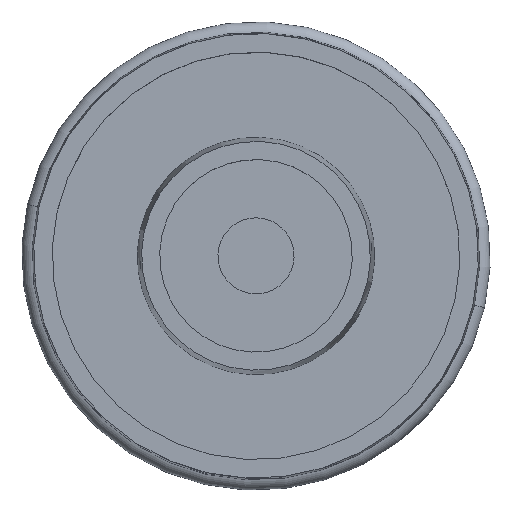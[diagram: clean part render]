
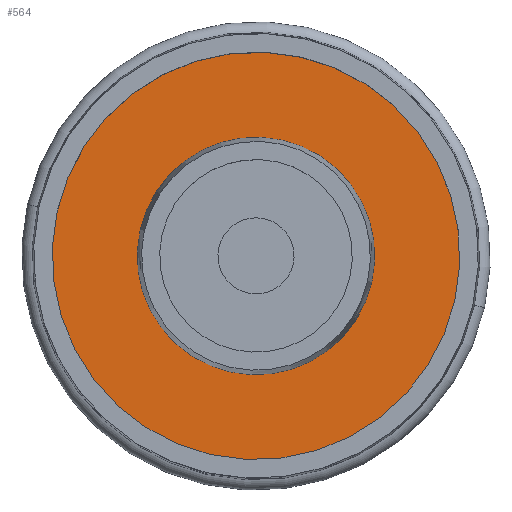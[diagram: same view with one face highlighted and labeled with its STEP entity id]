
A CAD part, top view. The second image highlights one B-rep face of the part: STEP entity #564.
In plain terms, the highlighted planar face has unit normal (0, 0, 1).
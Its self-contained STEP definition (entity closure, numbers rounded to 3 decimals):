
#3 = VERTEX_POINT ( 'NONE', #357 ) ;
#15 = CARTESIAN_POINT ( 'NONE',  ( 53.617, 31.05, -22.721 ) ) ;
#17 = DIRECTION ( 'NONE',  ( 0.976, -0.22, 0. ) ) ;
#44 = DIRECTION ( 'NONE',  ( 0., 0., 1. ) ) ;
#49 = ORIENTED_EDGE ( 'NONE', *, *, #57, .F. ) ;
#55 = EDGE_CURVE ( 'NONE', #452, #405, #188, .T. ) ;
#57 = EDGE_CURVE ( 'NONE', #578, #3, #425, .T. ) ;
#66 = ORIENTED_EDGE ( 'NONE', *, *, #401, .T. ) ;
#72 = CIRCLE ( 'NONE', #297, 7.055 ) ;
#77 = FACE_BOUND ( 'NONE', #513, .T. ) ;
#111 = AXIS2_PLACEMENT_3D ( 'NONE', #598, #44, #653 ) ;
#128 = DIRECTION ( 'NONE',  ( 0., 0., 1. ) ) ;
#188 = CIRCLE ( 'NONE', #111, 12.11 ) ;
#192 = CARTESIAN_POINT ( 'NONE',  ( 60.5, 29.5, -22.721 ) ) ;
#195 = DIRECTION ( 'NONE',  ( 0., 0., 1. ) ) ;
#254 = FACE_OUTER_BOUND ( 'NONE', #676, .T. ) ;
#297 = AXIS2_PLACEMENT_3D ( 'NONE', #192, #128, #17 ) ;
#315 = DIRECTION ( 'NONE',  ( 0., 0., 1. ) ) ;
#326 = DIRECTION ( 'NONE',  ( 0.976, -0.22, 0. ) ) ;
#357 = CARTESIAN_POINT ( 'NONE',  ( 67.383, 27.95, -22.721 ) ) ;
#381 = CARTESIAN_POINT ( 'NONE',  ( 48.686, 32.161, -22.721 ) ) ;
#399 = CIRCLE ( 'NONE', #615, 12.11 ) ;
#401 = EDGE_CURVE ( 'NONE', #405, #452, #399, .T. ) ;
#405 = VERTEX_POINT ( 'NONE', #646 ) ;
#425 = CIRCLE ( 'NONE', #634, 7.055 ) ;
#441 = DIRECTION ( 'NONE',  ( 0.976, -0.22, 0. ) ) ;
#447 = DIRECTION ( 'NONE',  ( 0., 0., 1. ) ) ;
#452 = VERTEX_POINT ( 'NONE', #381 ) ;
#458 = ORIENTED_EDGE ( 'NONE', *, *, #612, .F. ) ;
#507 = AXIS2_PLACEMENT_3D ( 'NONE', #698, #447, #554 ) ;
#513 = EDGE_LOOP ( 'NONE', ( #49, #458 ) ) ;
#536 = PLANE ( 'NONE',  #507 ) ;
#547 = CARTESIAN_POINT ( 'NONE',  ( 60.5, 29.5, -22.721 ) ) ;
#554 = DIRECTION ( 'NONE',  ( 0.976, -0.22, 0. ) ) ;
#564 = ADVANCED_FACE ( 'NONE', ( #254, #77 ), #536, .T. ) ;
#578 = VERTEX_POINT ( 'NONE', #15 ) ;
#598 = CARTESIAN_POINT ( 'NONE',  ( 60.5, 29.5, -22.721 ) ) ;
#612 = EDGE_CURVE ( 'NONE', #3, #578, #72, .T. ) ;
#615 = AXIS2_PLACEMENT_3D ( 'NONE', #652, #315, #441 ) ;
#634 = AXIS2_PLACEMENT_3D ( 'NONE', #547, #195, #326 ) ;
#646 = CARTESIAN_POINT ( 'NONE',  ( 72.314, 26.839, -22.721 ) ) ;
#652 = CARTESIAN_POINT ( 'NONE',  ( 60.5, 29.5, -22.721 ) ) ;
#653 = DIRECTION ( 'NONE',  ( 0.976, -0.22, 0. ) ) ;
#674 = ORIENTED_EDGE ( 'NONE', *, *, #55, .T. ) ;
#676 = EDGE_LOOP ( 'NONE', ( #66, #674 ) ) ;
#698 = CARTESIAN_POINT ( 'NONE',  ( 53.617, 31.05, -22.721 ) ) ;
